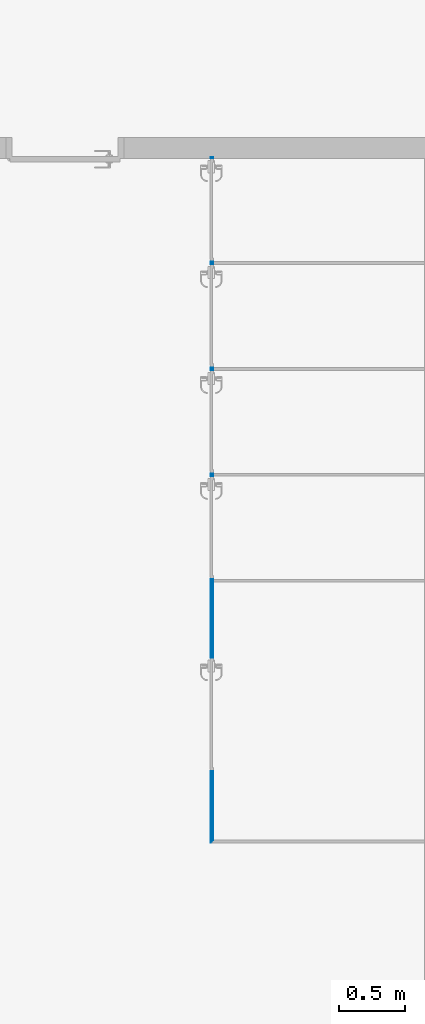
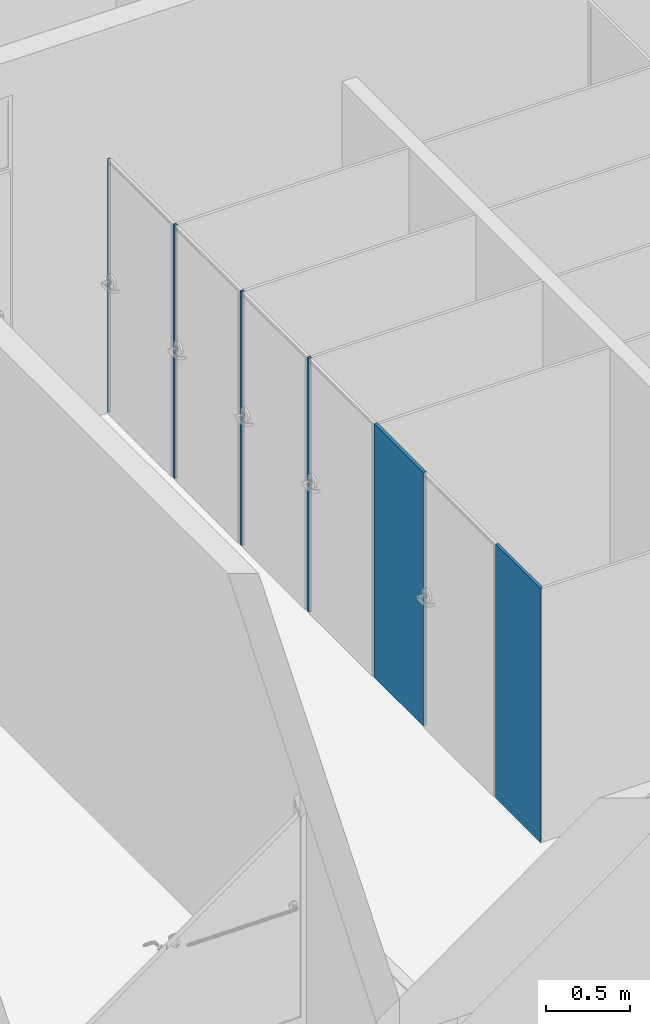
# One storey, part 15 of 45: 1 wall, 5 openings.
"""IFC2X3 building model written with IfcOpenShell, lengths in metres."""

from ifc_helpers import new_model, entity, si_unit, converted_unit, money_unit, direction, frame, origin_with_axes, place, context, subcontext, project, spatial, polyline, outline, extrude, material, layer, layer_set, layer_usage, type_object, element, save


model = new_model("IFC2X3")

# Units and contexts
model_context = context("Model", 3, precision=1e-05, world=origin_with_axes(), true_north=direction((0.0, 1.0)))
body_context = subcontext(model_context, "Body", "Model", "MODEL_VIEW")
ifc_project = project(units=[si_unit("LENGTHUNIT", "METRE"), si_unit("AREAUNIT", "SQUARE_METRE"), si_unit("VOLUMEUNIT", "CUBIC_METRE"), converted_unit("PLANEANGLEUNIT", "DEGREE", entity("IfcPlaneAngleMeasure", 0.0174532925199), si_unit("PLANEANGLEUNIT", "RADIAN"), dimensions=[0, 0, 0, 0, 0, 0, 0]), si_unit("SOLIDANGLEUNIT", "STERADIAN"), money_unit("EUR"), converted_unit("TIMEUNIT", "Year", entity("IfcTimeMeasure", 31556926.0), si_unit("TIMEUNIT", "SECOND"), dimensions=[0, 0, 0, 0, 0, 0, 0]), si_unit("MASSUNIT", "GRAM"), si_unit("THERMODYNAMICTEMPERATUREUNIT", "DEGREE_CELSIUS"), si_unit("LUMINOUSINTENSITYUNIT", "LUMEN")], contexts=[model_context])

# Site, building, storey
site_placement = place(None, origin_with_axes())
site = spatial("IfcSite", under=ifc_project, at=site_placement, Name="Site", CompositionType="ELEMENT")
building_placement = place(site_placement, origin_with_axes())
building = spatial("IfcBuilding", under=site, at=building_placement, Name="Bâtiment", CompositionType="ELEMENT")
storey_placement = place(building_placement, origin_with_axes())
storey = spatial("IfcBuildingStorey", under=building, at=storey_placement, Name="NIVEAU BAS GYMNASE", CompositionType="ELEMENT", Elevation=0.0)

# Wall, openings
ifc_material = material(Name="Hachure solide 3821565075")
ifc_layer = layer(ifc_material, 0.02, ventilated="UNKNOWN")
ifc_layer_set = layer_set([ifc_layer], Name="Hachure solide 3821565075 0.02")
ifc_layer_usage = layer_usage(ifc_layer_set, "AXIS2", "POSITIVE", 0.0)
wall_type = type_object("IfcWallType", Name="Hachure solide 3821565075 20", PredefinedType="NOTDEFINED")
wall_placement = place(storey_placement, frame((54.0387025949, 7.95895676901, 0.0), z_axis=(0.0, 0.0, 1.0), x_axis=(0.0, 1.0, 0.0)))
wall = element("IfcWallStandardCase", 1, at=wall_placement, inside=storey, type_object=wall_type, material=ifc_layer_usage, Name="Mur-022", context=body_context, shape_type="SweptSolid", body=[
    extrude(outline(polyline([(0.0, 0.0), (5.15985894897, 0.0), (5.15985894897, 0.02), (-0.02, 0.02), (0.0, 0.0)])), origin_with_axes(), (0.0, 0.0, 1.0), 1.85),
])
opening_1_placement = place(wall_placement, frame((2.35973397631, 0.0, -0.02), z_axis=(0.0, 0.0, 1.0), x_axis=(1.0, 0.0, 0.0)))
element("IfcOpeningElement", 2, at=opening_1_placement, cuts=wall, Name="Por-017", context=body_context, shape_type="SweptSolid", body=[
    extrude(outline(polyline([(0.39, 0.0), (-0.39, 0.0), (-0.39, -1.87), (0.39, -1.87), (0.39, 0.0)])), frame((0.0, -0.02, 0.0), z_axis=(0.0, 1.0, 0.0), x_axis=(1.0, 0.0, 0.0)), (0.0, 0.0, 1.0), 0.04),
])
opening_2_placement = place(wall_placement, frame((3.15985894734, 0.0, -0.02), z_axis=(0.0, 0.0, 1.0), x_axis=(1.0, 0.0, 0.0)))
element("IfcOpeningElement", 3, at=opening_2_placement, cuts=wall, Name="Por-017", context=body_context, shape_type="SweptSolid", body=[
    extrude(outline(polyline([(0.39, 0.0), (-0.39, 0.0), (-0.39, -1.87), (0.39, -1.87), (0.39, 0.0)])), frame((0.0, -0.02, 0.0), z_axis=(0.0, 1.0, 0.0), x_axis=(1.0, 0.0, 0.0)), (0.0, 0.0, 1.0), 0.04),
])
opening_3_placement = place(wall_placement, frame((3.95985894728, 0.0, -0.02), z_axis=(0.0, 0.0, 1.0), x_axis=(1.0, 0.0, 0.0)))
element("IfcOpeningElement", 4, at=opening_3_placement, cuts=wall, Name="Por-018", context=body_context, shape_type="SweptSolid", body=[
    extrude(outline(polyline([(0.39, 0.0), (-0.39, 0.0), (-0.39, -1.87), (0.39, -1.87), (0.39, 0.0)])), frame((0.0, -0.02, 0.0), z_axis=(0.0, 1.0, 0.0), x_axis=(1.0, 0.0, 0.0)), (0.0, 0.0, 1.0), 0.04),
])
opening_4_placement = place(wall_placement, frame((4.75985894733, 0.0, -0.02), z_axis=(0.0, 0.0, 1.0), x_axis=(1.0, 0.0, 0.0)))
element("IfcOpeningElement", 5, at=opening_4_placement, cuts=wall, Name="Por-019", context=body_context, shape_type="SweptSolid", body=[
    extrude(outline(polyline([(0.39, 0.0), (-0.39, 0.0), (-0.39, -1.87), (0.39, -1.87), (0.39, 0.0)])), frame((0.0, -0.02, 0.0), z_axis=(0.0, 1.0, 0.0), x_axis=(1.0, 0.0, 0.0)), (0.0, 0.0, 1.0), 0.04),
])
opening_5_placement = place(wall_placement, frame((0.950033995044, 0.0, -0.02), z_axis=(0.0, 0.0, 1.0), x_axis=(1.0, 0.0, 0.0)))
element("IfcOpeningElement", 6, at=opening_5_placement, cuts=wall, Name="Por-018", context=body_context, shape_type="SweptSolid", body=[
    extrude(outline(polyline([(0.43, 0.0), (-0.43, 0.0), (-0.43, -1.87), (0.43, -1.87), (0.43, 0.0)])), frame((0.0, -0.02, 0.0), z_axis=(0.0, 1.0, 0.0), x_axis=(1.0, 0.0, 0.0)), (0.0, 0.0, 1.0), 0.04),
])

save(model, "model.ifc")
